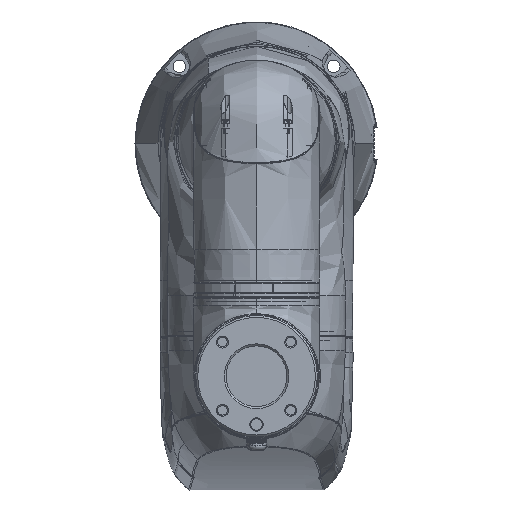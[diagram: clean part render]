
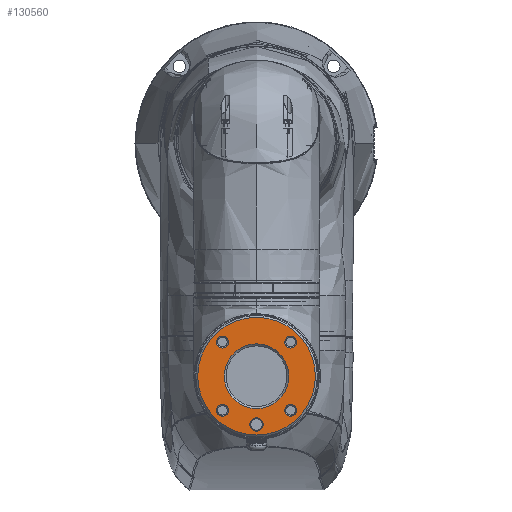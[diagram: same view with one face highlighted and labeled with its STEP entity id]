
A CAD part, top view. The second image highlights one B-rep face of the part: STEP entity #130560.
In plain terms, the highlighted planar face has unit normal (0, 0, 1) as drawn and (-1, 0, 0) by its records, which use the part's own axes.
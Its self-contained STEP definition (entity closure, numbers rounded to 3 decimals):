
#1994 = DIRECTION ( 'NONE',  ( -1., 0., 0. ) ) ;
#2040 = DIRECTION ( 'NONE',  ( 0., 0., -1. ) ) ;
#2555 = DIRECTION ( 'NONE',  ( -1., 0., 0. ) ) ;
#3810 = FACE_BOUND ( 'NONE', #61004, .T. ) ;
#4115 = CIRCLE ( 'NONE', #86604, 3.1 ) ;
#4743 = DIRECTION ( 'NONE',  ( 0., 0., -1. ) ) ;
#4798 = DIRECTION ( 'NONE',  ( 1., 0., 0. ) ) ;
#6134 = CARTESIAN_POINT ( 'NONE',  ( 0., -17.678, 20.778 ) ) ;
#6752 = CARTESIAN_POINT ( 'NONE',  ( 0., 25., 3.5 ) ) ;
#7380 = CARTESIAN_POINT ( 'NONE',  ( 0., -17.678, 14.578 ) ) ;
#10383 = VERTEX_POINT ( 'NONE', #6752 ) ;
#12643 = VERTEX_POINT ( 'NONE', #151717 ) ;
#13549 = CIRCLE ( 'NONE', #164601, 3.1 ) ;
#14837 = DIRECTION ( 'NONE',  ( 0., 0., 1. ) ) ;
#15035 = ORIENTED_EDGE ( 'NONE', *, *, #20983, .F. ) ;
#15348 = AXIS2_PLACEMENT_3D ( 'NONE', #46841, #57984, #4743 ) ;
#16979 = AXIS2_PLACEMENT_3D ( 'NONE', #143544, #115072, #128880 ) ;
#17067 = ORIENTED_EDGE ( 'NONE', *, *, #123160, .T. ) ;
#17376 = ORIENTED_EDGE ( 'NONE', *, *, #90675, .F. ) ;
#19980 = EDGE_LOOP ( 'NONE', ( #64818, #150640 ) ) ;
#20983 = EDGE_CURVE ( 'NONE', #144506, #108152, #112465, .T. ) ;
#24116 = DIRECTION ( 'NONE',  ( -1., 0., 0. ) ) ;
#24787 = CARTESIAN_POINT ( 'NONE',  ( 0., 0., -30.5 ) ) ;
#26038 = VERTEX_POINT ( 'NONE', #24787 ) ;
#26395 = AXIS2_PLACEMENT_3D ( 'NONE', #87803, #60259, #126629 ) ;
#26453 = CIRCLE ( 'NONE', #29243, 30.5 ) ;
#26611 = EDGE_CURVE ( 'NONE', #28970, #89724, #44755, .T. ) ;
#26931 = VERTEX_POINT ( 'NONE', #51617 ) ;
#28762 = EDGE_CURVE ( 'NONE', #82639, #53074, #4115, .T. ) ;
#28970 = VERTEX_POINT ( 'NONE', #44309 ) ;
#29243 = AXIS2_PLACEMENT_3D ( 'NONE', #107588, #2555, #157474 ) ;
#30313 = DIRECTION ( 'NONE',  ( -1., 0., 0. ) ) ;
#35350 = CIRCLE ( 'NONE', #104107, 30.5 ) ;
#40031 = CIRCLE ( 'NONE', #15348, 16.75 ) ;
#40738 = CARTESIAN_POINT ( 'NONE',  ( 0., 25., 0. ) ) ;
#42418 = EDGE_CURVE ( 'NONE', #44319, #10383, #67789, .T. ) ;
#43238 = AXIS2_PLACEMENT_3D ( 'NONE', #163090, #4798, #161387 ) ;
#43355 = DIRECTION ( 'NONE',  ( 1., 0., 0. ) ) ;
#44309 = CARTESIAN_POINT ( 'NONE',  ( 0., 17.678, -14.578 ) ) ;
#44319 = VERTEX_POINT ( 'NONE', #116974 ) ;
#44501 = DIRECTION ( 'NONE',  ( 0., 0., -1. ) ) ;
#44755 = CIRCLE ( 'NONE', #77608, 3.1 ) ;
#46841 = CARTESIAN_POINT ( 'NONE',  ( 0., 0., 0. ) ) ;
#51617 = CARTESIAN_POINT ( 'NONE',  ( 0., 0., -16.75 ) ) ;
#53074 = VERTEX_POINT ( 'NONE', #125292 ) ;
#54150 = EDGE_LOOP ( 'NONE', ( #127057, #153838 ) ) ;
#57984 = DIRECTION ( 'NONE',  ( 1., 0., 0. ) ) ;
#60035 = CIRCLE ( 'NONE', #128864, 3.1 ) ;
#60259 = DIRECTION ( 'NONE',  ( -1., 0., 0. ) ) ;
#61004 = EDGE_LOOP ( 'NONE', ( #89539, #15035 ) ) ;
#61970 = ORIENTED_EDGE ( 'NONE', *, *, #28762, .F. ) ;
#62767 = CARTESIAN_POINT ( 'NONE',  ( 0., 17.678, -17.678 ) ) ;
#63139 = EDGE_LOOP ( 'NONE', ( #138882, #93591 ) ) ;
#64818 = ORIENTED_EDGE ( 'NONE', *, *, #107736, .T. ) ;
#65619 = CARTESIAN_POINT ( 'NONE',  ( 0., 17.678, -20.778 ) ) ;
#65708 = FACE_BOUND ( 'NONE', #109348, .T. ) ;
#66158 = AXIS2_PLACEMENT_3D ( 'NONE', #146023, #92551, #145180 ) ;
#66557 = CARTESIAN_POINT ( 'NONE',  ( 0., 15.75, 0. ) ) ;
#67789 = CIRCLE ( 'NONE', #133915, 3.5 ) ;
#68268 = DIRECTION ( 'NONE',  ( 0., 0., -1. ) ) ;
#68360 = AXIS2_PLACEMENT_3D ( 'NONE', #95729, #1994, #69011 ) ;
#69011 = DIRECTION ( 'NONE',  ( 0., 0., 1. ) ) ;
#71117 = DIRECTION ( 'NONE',  ( -1., 0., 0. ) ) ;
#72850 = EDGE_CURVE ( 'NONE', #26931, #12643, #40031, .T. ) ;
#73494 = EDGE_CURVE ( 'NONE', #26038, #99843, #26453, .T. ) ;
#77608 = AXIS2_PLACEMENT_3D ( 'NONE', #131946, #30313, #14837 ) ;
#78913 = CARTESIAN_POINT ( 'NONE',  ( 0., -17.678, 17.678 ) ) ;
#82639 = VERTEX_POINT ( 'NONE', #102812 ) ;
#84968 = AXIS2_PLACEMENT_3D ( 'NONE', #66557, #43355, #68268 ) ;
#86604 = AXIS2_PLACEMENT_3D ( 'NONE', #159259, #157558, #145630 ) ;
#87341 = ORIENTED_EDGE ( 'NONE', *, *, #73494, .T. ) ;
#87803 = CARTESIAN_POINT ( 'NONE',  ( 0., -17.678, -17.678 ) ) ;
#89539 = ORIENTED_EDGE ( 'NONE', *, *, #157568, .F. ) ;
#89724 = VERTEX_POINT ( 'NONE', #65619 ) ;
#90675 = EDGE_CURVE ( 'NONE', #53074, #82639, #136245, .T. ) ;
#91882 = DIRECTION ( 'NONE',  ( 0., 0., 1. ) ) ;
#92551 = DIRECTION ( 'NONE',  ( 1., 0., 0. ) ) ;
#93378 = ORIENTED_EDGE ( 'NONE', *, *, #113650, .F. ) ;
#93591 = ORIENTED_EDGE ( 'NONE', *, *, #105564, .F. ) ;
#93669 = EDGE_CURVE ( 'NONE', #109406, #136572, #13549, .T. ) ;
#95031 = FACE_BOUND ( 'NONE', #19980, .T. ) ;
#95729 = CARTESIAN_POINT ( 'NONE',  ( 0., 17.678, 17.678 ) ) ;
#96189 = DIRECTION ( 'NONE',  ( -1., 0., 0. ) ) ;
#99843 = VERTEX_POINT ( 'NONE', #157674 ) ;
#101886 = ORIENTED_EDGE ( 'NONE', *, *, #93669, .F. ) ;
#102812 = CARTESIAN_POINT ( 'NONE',  ( 0., -17.678, -14.578 ) ) ;
#104107 = AXIS2_PLACEMENT_3D ( 'NONE', #161532, #96189, #44501 ) ;
#105564 = EDGE_CURVE ( 'NONE', #89724, #28970, #60035, .T. ) ;
#106238 = EDGE_LOOP ( 'NONE', ( #87341, #17067 ) ) ;
#106290 = PLANE ( 'NONE',  #84968 ) ;
#107139 = FACE_BOUND ( 'NONE', #54150, .T. ) ;
#107588 = CARTESIAN_POINT ( 'NONE',  ( 0., 0., 0. ) ) ;
#107736 = EDGE_CURVE ( 'NONE', #10383, #44319, #140573, .T. ) ;
#108152 = VERTEX_POINT ( 'NONE', #132654 ) ;
#108818 = FACE_BOUND ( 'NONE', #139593, .T. ) ;
#109348 = EDGE_LOOP ( 'NONE', ( #61970, #17376 ) ) ;
#109406 = VERTEX_POINT ( 'NONE', #7380 ) ;
#110812 = CARTESIAN_POINT ( 'NONE',  ( 0., 17.678, 17.678 ) ) ;
#112465 = CIRCLE ( 'NONE', #134507, 3.1 ) ;
#113650 = EDGE_CURVE ( 'NONE', #136572, #109406, #140668, .T. ) ;
#115072 = DIRECTION ( 'NONE',  ( -1., 0., 0. ) ) ;
#115338 = DIRECTION ( 'NONE',  ( 0., 0., 1. ) ) ;
#116974 = CARTESIAN_POINT ( 'NONE',  ( 0., 25., -3.5 ) ) ;
#120859 = FACE_BOUND ( 'NONE', #63139, .T. ) ;
#123160 = EDGE_CURVE ( 'NONE', #99843, #26038, #35350, .T. ) ;
#125292 = CARTESIAN_POINT ( 'NONE',  ( 0., -17.678, -20.778 ) ) ;
#126629 = DIRECTION ( 'NONE',  ( 0., 0., 1. ) ) ;
#127057 = ORIENTED_EDGE ( 'NONE', *, *, #129256, .T. ) ;
#128864 = AXIS2_PLACEMENT_3D ( 'NONE', #62767, #24116, #115338 ) ;
#128880 = DIRECTION ( 'NONE',  ( 0., 0., 1. ) ) ;
#129256 = EDGE_CURVE ( 'NONE', #12643, #26931, #136806, .T. ) ;
#130560 = ADVANCED_FACE ( 'NONE', ( #147591, #120859, #3810, #108818, #65708, #95031, #107139 ), #106290, .F. ) ;
#131946 = CARTESIAN_POINT ( 'NONE',  ( 0., 17.678, -17.678 ) ) ;
#132654 = CARTESIAN_POINT ( 'NONE',  ( 0., 17.678, 20.778 ) ) ;
#133915 = AXIS2_PLACEMENT_3D ( 'NONE', #40738, #157796, #2040 ) ;
#134507 = AXIS2_PLACEMENT_3D ( 'NONE', #110812, #71117, #165761 ) ;
#136245 = CIRCLE ( 'NONE', #26395, 3.1 ) ;
#136572 = VERTEX_POINT ( 'NONE', #6134 ) ;
#136806 = CIRCLE ( 'NONE', #43238, 16.75 ) ;
#138882 = ORIENTED_EDGE ( 'NONE', *, *, #26611, .F. ) ;
#139276 = CARTESIAN_POINT ( 'NONE',  ( 0., 17.678, 14.578 ) ) ;
#139593 = EDGE_LOOP ( 'NONE', ( #93378, #101886 ) ) ;
#140573 = CIRCLE ( 'NONE', #66158, 3.5 ) ;
#140668 = CIRCLE ( 'NONE', #16979, 3.1 ) ;
#142745 = CIRCLE ( 'NONE', #68360, 3.1 ) ;
#143544 = CARTESIAN_POINT ( 'NONE',  ( 0., -17.678, 17.678 ) ) ;
#144506 = VERTEX_POINT ( 'NONE', #139276 ) ;
#145180 = DIRECTION ( 'NONE',  ( 0., 0., -1. ) ) ;
#145630 = DIRECTION ( 'NONE',  ( 0., 0., 1. ) ) ;
#146023 = CARTESIAN_POINT ( 'NONE',  ( 0., 25., 0. ) ) ;
#147591 = FACE_OUTER_BOUND ( 'NONE', #106238, .T. ) ;
#150640 = ORIENTED_EDGE ( 'NONE', *, *, #42418, .T. ) ;
#151717 = CARTESIAN_POINT ( 'NONE',  ( 0., 0., 16.75 ) ) ;
#153838 = ORIENTED_EDGE ( 'NONE', *, *, #72850, .T. ) ;
#157474 = DIRECTION ( 'NONE',  ( 0., 0., -1. ) ) ;
#157558 = DIRECTION ( 'NONE',  ( -1., 0., 0. ) ) ;
#157568 = EDGE_CURVE ( 'NONE', #108152, #144506, #142745, .T. ) ;
#157674 = CARTESIAN_POINT ( 'NONE',  ( 0., 0., 30.5 ) ) ;
#157796 = DIRECTION ( 'NONE',  ( 1., 0., 0. ) ) ;
#159259 = CARTESIAN_POINT ( 'NONE',  ( 0., -17.678, -17.678 ) ) ;
#161387 = DIRECTION ( 'NONE',  ( 0., 0., -1. ) ) ;
#161532 = CARTESIAN_POINT ( 'NONE',  ( 0., 0., 0. ) ) ;
#163090 = CARTESIAN_POINT ( 'NONE',  ( 0., 0., 0. ) ) ;
#164601 = AXIS2_PLACEMENT_3D ( 'NONE', #78913, #168447, #91882 ) ;
#165761 = DIRECTION ( 'NONE',  ( 0., 0., 1. ) ) ;
#168447 = DIRECTION ( 'NONE',  ( -1., 0., 0. ) ) ;
